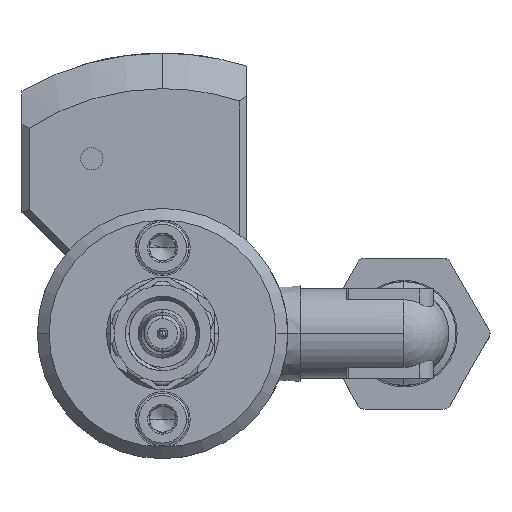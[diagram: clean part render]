
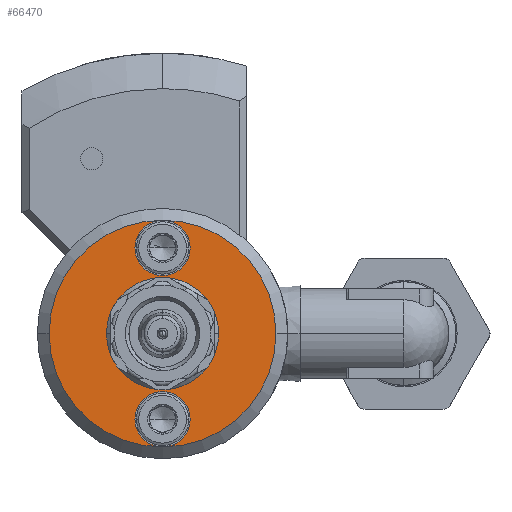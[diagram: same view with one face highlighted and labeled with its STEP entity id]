
A CAD part, front view. The second image highlights one B-rep face of the part: STEP entity #66470.
In plain terms, the highlighted planar face has unit normal (0, -1, 0).
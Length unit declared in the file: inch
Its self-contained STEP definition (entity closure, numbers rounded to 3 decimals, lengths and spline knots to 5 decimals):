
#5109 = CARTESIAN_POINT ( 'NONE',  ( -0.117, -0.875, 0.3625 ) ) ;
#10219 = DIRECTION ( 'NONE',  ( 1., 0., 0. ) ) ;
#15147 = EDGE_CURVE ( 'NONE', #90520, #55890, #69669, .T. ) ;
#15729 = CARTESIAN_POINT ( 'NONE',  ( 0., -0.875, 0.3625 ) ) ;
#17735 = CARTESIAN_POINT ( 'NONE',  ( 0., -0.875, 0. ) ) ;
#18980 = VERTEX_POINT ( 'NONE', #162066 ) ;
#24273 = DIRECTION ( 'NONE',  ( 0., -1., 0. ) ) ;
#24318 = CARTESIAN_POINT ( 'NONE',  ( -0.2375, -0.875, 0. ) ) ;
#29391 = AXIS2_PLACEMENT_3D ( 'NONE', #146142, #92786, #66744 ) ;
#31336 = DIRECTION ( 'NONE',  ( 0., -1., 0. ) ) ;
#35645 = CIRCLE ( 'NONE', #60574, 0.117 ) ;
#36235 = CARTESIAN_POINT ( 'NONE',  ( 0., -0.875, 0.3625 ) ) ;
#37230 = CARTESIAN_POINT ( 'NONE',  ( 0., -0.875, -0.3625 ) ) ;
#39623 = ORIENTED_EDGE ( 'NONE', *, *, #49427, .F. ) ;
#39673 = ORIENTED_EDGE ( 'NONE', *, *, #103475, .T. ) ;
#43922 = CARTESIAN_POINT ( 'NONE',  ( 0., -0.875, 0. ) ) ;
#44282 = DIRECTION ( 'NONE',  ( 0., -1., 0. ) ) ;
#49427 = EDGE_CURVE ( 'NONE', #128665, #18980, #127532, .T. ) ;
#50695 = DIRECTION ( 'NONE',  ( 0., -1., 0. ) ) ;
#51315 = CARTESIAN_POINT ( 'NONE',  ( 0.117, -0.875, 0.3625 ) ) ;
#54504 = CARTESIAN_POINT ( 'NONE',  ( -0.117, -0.875, -0.3625 ) ) ;
#55890 = VERTEX_POINT ( 'NONE', #24318 ) ;
#57134 = AXIS2_PLACEMENT_3D ( 'NONE', #43922, #82691, #83276 ) ;
#60574 = AXIS2_PLACEMENT_3D ( 'NONE', #15729, #68396, #82839 ) ;
#65663 = ORIENTED_EDGE ( 'NONE', *, *, #15147, .F. ) ;
#66470 = ADVANCED_FACE ( 'NONE', ( #143011, #168009, #89117, #105688 ), #110619, .T. ) ;
#66744 = DIRECTION ( 'NONE',  ( 1., 0., 0. ) ) ;
#66753 = CIRCLE ( 'NONE', #165993, 0.2375 ) ;
#67511 = CARTESIAN_POINT ( 'NONE',  ( 0., -0.875, 0. ) ) ;
#68396 = DIRECTION ( 'NONE',  ( 0., -1., 0. ) ) ;
#69461 = VERTEX_POINT ( 'NONE', #51315 ) ;
#69669 = CIRCLE ( 'NONE', #169910, 0.2375 ) ;
#70141 = CARTESIAN_POINT ( 'NONE',  ( 0., -0.875, 0.2375 ) ) ;
#70492 = ORIENTED_EDGE ( 'NONE', *, *, #144092, .F. ) ;
#82691 = DIRECTION ( 'NONE',  ( 0., -1., 0. ) ) ;
#82839 = DIRECTION ( 'NONE',  ( 1., 0., 0. ) ) ;
#83276 = DIRECTION ( 'NONE',  ( 1., 0., 0. ) ) ;
#85924 = EDGE_CURVE ( 'NONE', #18980, #128665, #114780, .T. ) ;
#86014 = CARTESIAN_POINT ( 'NONE',  ( -0.48, -0.875, 0. ) ) ;
#89117 = FACE_OUTER_BOUND ( 'NONE', #143418, .T. ) ;
#90520 = VERTEX_POINT ( 'NONE', #98868 ) ;
#92287 = EDGE_CURVE ( 'NONE', #55890, #90520, #66753, .T. ) ;
#92786 = DIRECTION ( 'NONE',  ( 0., -1., 0. ) ) ;
#94149 = DIRECTION ( 'NONE',  ( 1., 0., 0. ) ) ;
#97102 = CIRCLE ( 'NONE', #29391, 0.48 ) ;
#98868 = CARTESIAN_POINT ( 'NONE',  ( 0.2375, -0.875, 0. ) ) ;
#103154 = ORIENTED_EDGE ( 'NONE', *, *, #92287, .F. ) ;
#103475 = EDGE_CURVE ( 'NONE', #162825, #109438, #110164, .T. ) ;
#103859 = ORIENTED_EDGE ( 'NONE', *, *, #140292, .F. ) ;
#105688 = FACE_BOUND ( 'NONE', #153214, .T. ) ;
#109438 = VERTEX_POINT ( 'NONE', #165301 ) ;
#110164 = CIRCLE ( 'NONE', #57134, 0.48 ) ;
#110619 = PLANE ( 'NONE',  #117978 ) ;
#114780 = CIRCLE ( 'NONE', #137546, 0.117 ) ;
#116859 = DIRECTION ( 'NONE',  ( -1., 0., 0. ) ) ;
#117978 = AXIS2_PLACEMENT_3D ( 'NONE', #70141, #31336, #137337 ) ;
#120789 = DIRECTION ( 'NONE',  ( 0., -1., 0. ) ) ;
#121664 = ORIENTED_EDGE ( 'NONE', *, *, #160831, .T. ) ;
#122225 = EDGE_LOOP ( 'NONE', ( #135745, #39623 ) ) ;
#124257 = VERTEX_POINT ( 'NONE', #5109 ) ;
#125419 = AXIS2_PLACEMENT_3D ( 'NONE', #37230, #129919, #143268 ) ;
#127532 = CIRCLE ( 'NONE', #125419, 0.117 ) ;
#128665 = VERTEX_POINT ( 'NONE', #54504 ) ;
#129919 = DIRECTION ( 'NONE',  ( 0., -1., 0. ) ) ;
#131922 = CIRCLE ( 'NONE', #165955, 0.117 ) ;
#135745 = ORIENTED_EDGE ( 'NONE', *, *, #85924, .F. ) ;
#137337 = DIRECTION ( 'NONE',  ( 1., 0., 0. ) ) ;
#137546 = AXIS2_PLACEMENT_3D ( 'NONE', #155207, #24273, #116859 ) ;
#140292 = EDGE_CURVE ( 'NONE', #69461, #124257, #131922, .T. ) ;
#143011 = FACE_BOUND ( 'NONE', #122225, .T. ) ;
#143268 = DIRECTION ( 'NONE',  ( -1., 0., 0. ) ) ;
#143418 = EDGE_LOOP ( 'NONE', ( #39673, #121664 ) ) ;
#144092 = EDGE_CURVE ( 'NONE', #124257, #69461, #35645, .T. ) ;
#146142 = CARTESIAN_POINT ( 'NONE',  ( 0., -0.875, 0. ) ) ;
#149179 = DIRECTION ( 'NONE',  ( 1., 0., 0. ) ) ;
#153214 = EDGE_LOOP ( 'NONE', ( #65663, #103154 ) ) ;
#155207 = CARTESIAN_POINT ( 'NONE',  ( 0., -0.875, -0.3625 ) ) ;
#160831 = EDGE_CURVE ( 'NONE', #109438, #162825, #97102, .T. ) ;
#162066 = CARTESIAN_POINT ( 'NONE',  ( 0.117, -0.875, -0.3625 ) ) ;
#162825 = VERTEX_POINT ( 'NONE', #86014 ) ;
#164543 = EDGE_LOOP ( 'NONE', ( #103859, #70492 ) ) ;
#165301 = CARTESIAN_POINT ( 'NONE',  ( 0.48, -0.875, 0. ) ) ;
#165955 = AXIS2_PLACEMENT_3D ( 'NONE', #36235, #50695, #10219 ) ;
#165993 = AXIS2_PLACEMENT_3D ( 'NONE', #17735, #44282, #149179 ) ;
#168009 = FACE_BOUND ( 'NONE', #164543, .T. ) ;
#169910 = AXIS2_PLACEMENT_3D ( 'NONE', #67511, #120789, #94149 ) ;
